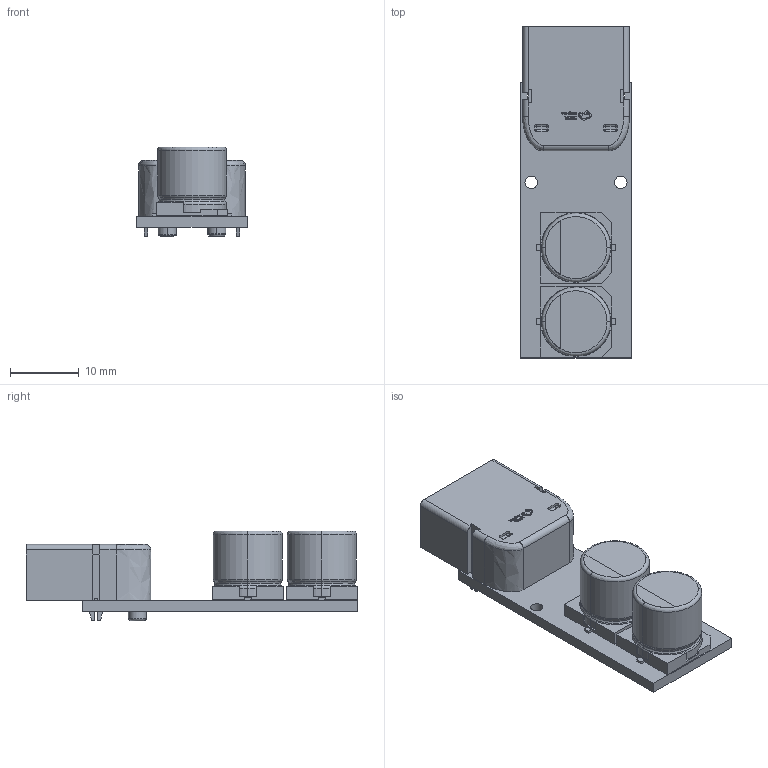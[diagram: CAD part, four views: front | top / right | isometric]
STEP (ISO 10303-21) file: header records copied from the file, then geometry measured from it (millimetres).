
FILE_DESCRIPTION(('Designed by EasyEDA Pro'),'2;1');
FILE_NAME('Open CASCADE Shape Model','2024-07-04T03:34:26',('Author'),( 'Open CASCADE'),'Open CASCADE STEP processor 7.6','Open CASCADE 7.6' ,'Unknown');
FILE_SCHEMA(('AUTOMOTIVE_DESIGN { 1 0 10303 214 1 1 1 1 }'));
Length unit declared in the file: millimetre
Products named in the file (9): PCBModel; COMPOUND; CN1; CONN-TH_XT60PW-M; SOLID; C2; CAP-SMD_BD10.0-L10.3-W10.3-FD; C1
Assembly tree (9 placements, depth 4):
  PCBModel
    COMPOUND
    CN1
      CONN-TH_XT60PW-M
        SOLID
    C2
      CAP-SMD_BD10.0-L10.3-W10.3-FD
        SOLID
    C1
      CAP-SMD_BD10.0-L10.3-W10.3-FD
        SOLID
Bounding box: 15.97 x 48.14 x 13.05 mm (x, y, z)
Volume: 4212.8 mm3; surface area: 4390 mm2
Topology: 4 solids, 4 shells, 1088 faces, 2903 edges, 1886 vertices
Faces by surface type: plane 643, bspline 312, cylinder 75, torus 36, cone 12, sphere 10
Full cylindrical faces by diameter (mm): 1.8 x2, 2.9 x2
Entity records: 34015 total; most frequent: CARTESIAN_POINT 8220, ORIENTED_EDGE 4238, DIRECTION 3020, EDGE_CURVE 2119, LINE 1430, VECTOR 1430, VERTEX_POINT 1376, FACE_BOUND 867
